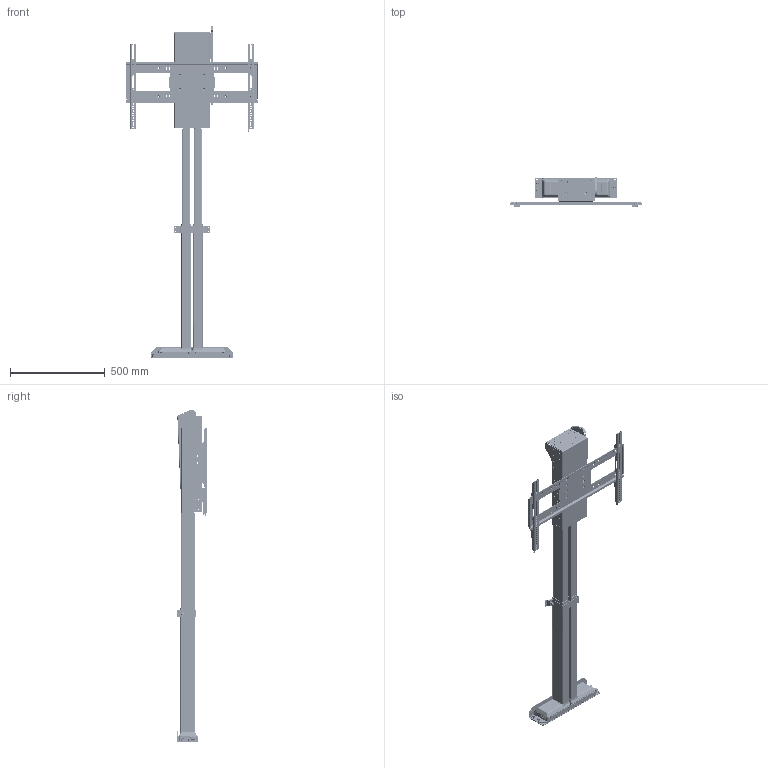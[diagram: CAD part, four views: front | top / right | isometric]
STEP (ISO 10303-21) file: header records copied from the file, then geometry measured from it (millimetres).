
FILE_DESCRIPTION(/* description */ ('STEP AP242','CAx-IF Rec.Pracs.---Representation and Presentation of Product Manufacturing Information (PMI)---4.0---2014-10-13','CAx-IF Rec.Pracs.---3D Tessellated Geometry---0.4---2014-09-14','2;1'),/* implementation_level */ '2;1');
FILE_NAME(/* name */ '654aa19ac3dc330f76ed934b',/* time_stamp */ '2023-11-07T20:44:13Z',/* author */ (''),/* organization */ (''),/* preprocessor_version */ 'ST-DEVELOPER v19.4',/* originating_system */ ' ',/* authorisation */ ' ');
FILE_SCHEMA (('AP242_MANAGED_MODEL_BASED_3D_ENGINEERING_MIM_LF { 1 0 10303 442 1 1 4 }'));
Products named in the file (38): DL-65 (HD); WDS8151-215; Hex socket countersunk head screw M6x1 x 12; OLD_ULS-NX-024 - ULS Hinged Top Guide; Socket button head screw M6x1 x 8; Socket button head screw M6x1 x 16; ULS-NX-032 - HD Quick Release LC Mount; Lift Column H <2>; L45 LC Motor Housing; L45 LC Inner Profile; L45 LC Middle Profile; L65 PS Adapter; ULS-NX-031 - HD QUICK RELEASE BASE MOUNT w/ PEMS <1>; ULS-NX-031 - HD QUICK RELEASE BASE MOUNT; PEM FHS-M6-12  ; ULS-NX-041 -- ULS HD HTG Adapter Plate; ULS-NX-030 - HD REAR SUPPORT w/ PEMs <1>; ULS-NX-030 - HD Rear Support; ULS-NX-029 - HD Column Clamp; Lift Column H <1>; SS Fixed Short - Rev B2 <1>; PEM CLS-M6-1; PEM Nut F-M4-2; PEM Nut CLSS-M5-1; PS Screen Support Fixed 01; SBP & VMB <1>; PZ Pan head screw M5x0.80 x 25; ULS-NX-118 - UL VMB WELDMENT <1>; 90107A012; PEM BSO-632-10  ZI; VMB Washer; ULS-NX-020 - UL SCREEN LOCK; Socket button head cap screw #6-32 x 0.188; ULS-NX-019 - UL LEVEL ADJUSTMENT PLATE; ULS-NX-018 - UL VERICAL MOUNTING BAR; ULS-NX-118 - UL VMB WELDMENT <2>; ULS-NX-017 - UL SCREEN BACK PLATE
Assembly tree (149 placements, depth 4):
  DL-65 (HD)
    WDS8151-215  x6
    Hex socket countersunk head screw M6x1 x 12  x17
    OLD_ULS-NX-024 - ULS Hinged Top Guide
    Socket button head screw M6x1 x 8  x4
    Hex socket countersunk head screw M6x1 x 12  x4
    Socket button head screw M6x1 x 16  x8
    ULS-NX-032 - HD Quick Release LC Mount
    Lift Column H <2>
      L45 LC Motor Housing
      L45 LC Inner Profile
      L45 LC Middle Profile
    L65 PS Adapter
    ULS-NX-031 - HD QUICK RELEASE BASE MOUNT w/ PEMS <1>
      ULS-NX-031 - HD QUICK RELEASE BASE MOUNT
      PEM FHS-M6-12    x4
    ULS-NX-041 -- ULS HD HTG Adapter Plate
    ULS-NX-030 - HD REAR SUPPORT w/ PEMs <1>
      PEM FHS-M6-12    x2
      ULS-NX-030 - HD Rear Support
    ULS-NX-029 - HD Column Clamp
    Lift Column H <1>
      L45 LC Inner Profile
      L45 LC Middle Profile
      L45 LC Motor Housing
    SS Fixed Short - Rev B2 <1>
      PEM CLS-M6-1  x42
      PEM Nut F-M4-2  x8
      PEM Nut CLSS-M5-1  x2
      PS Screen Support Fixed 01
      L65 PS Adapter
    SBP & VMB <1>
      PZ Pan head screw M5x0.80 x 25  x2
      ULS-NX-118 - UL VMB WELDMENT <1>
        90107A012  x2
        PEM BSO-632-10  ZI  x2
        VMB Washer  x4
        ULS-NX-020 - UL SCREEN LOCK
        Socket button head cap screw #6-32 x 0.188  x2
        ULS-NX-019 - UL LEVEL ADJUSTMENT PLATE
        ULS-NX-018 - UL VERICAL MOUNTING BAR
      ULS-NX-118 - UL VMB WELDMENT <2>
        90107A012  x2
        PEM BSO-632-10  ZI  x2
        ULS-NX-018 - UL VERICAL MOUNTING BAR
        Socket button head cap screw #6-32 x 0.188  x2
        ULS-NX-019 - UL LEVEL ADJUSTMENT PLATE
        VMB Washer  x4
        ULS-NX-020 - UL SCREEN LOCK
      ULS-NX-017 - UL SCREEN BACK PLATE
Bounding box: 698.5 x 155.15 x 1753.51 mm (x, y, z)
Volume: 15920619.4 mm3; surface area: 2382786.2 mm2
Topology: 141 solids, 141 shells, 9277 faces, 24143 edges, 15526 vertices
Faces by surface type: plane 5573, cylinder 2384, cone 704, bspline 359, torus 215, sphere 42
Full cylindrical faces by diameter (mm): 2.642 x4, 3.505 x4, 4 x8, 4.6 x4, 4.917 x42, 5 x44, 5.026 x4, 5.08 x4, 5.277 x8, 5.3 x12, 5.385 x12, 5.41 x8, 5.6 x8, 5.944 x4, 5.994 x4, 6 x59, 6.35 x28, 6.4 x20, 6.6 x18, 6.655 x4, 7.112 x2, 7.37 x16, 8.128 x34, 8.64 x2, 8.73 x42, 8.738 x42, 9.5 x2, 9.525 x8, 11.18 x42, 11.34 x21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
Entity records: 86112 total; most frequent: CARTESIAN_POINT 16809, DIRECTION 13615, ORIENTED_EDGE 13048, EDGE_CURVE 6524, AXIS2_PLACEMENT_3D 4758, VERTEX_POINT 4341, LINE 4099, VECTOR 4099
